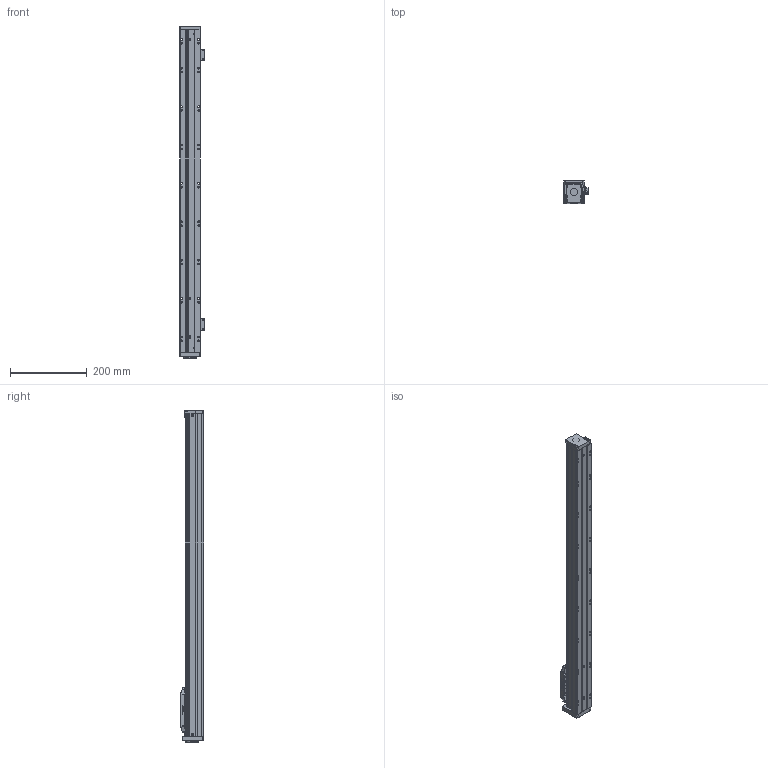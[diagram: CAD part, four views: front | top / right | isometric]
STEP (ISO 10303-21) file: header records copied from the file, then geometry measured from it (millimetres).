
FILE_DESCRIPTION (( 'STEP AP203' ), '1' );
FILE_NAME ('KTH5-L10-S700.STEP', '2019-12-19T08:38:43', ( '微软用户' ), ( '微软中国' ), 'SwSTEP 2.0', 'SolidWorks 2017', '' );
FILE_SCHEMA (( 'CONFIG_CONTROL_DESIGN' ));
Length unit declared in the file: millimetre
Products named in the file (16): 嫖萇羲壽諉揖え; 棠沭; EE-SX674; LES50-013癹弇菜; EE-SX674WR嫖萇羲壽假蚾啣; 詩湍; KTH5-L10-S700; 詩湍揤啣; GB╱T 70.1-2008[内六角圆柱头螺钉M4×16]_M4×16; LES50-001菁釱; GB╱T 70.2-2008[内六角平圆头螺钉M3×10]_M3×10; LES50-004賑釱; ヶ裔-党蜊唳; 耜啣; 粣創釱-郔笝唳20190813; 階裔
Assembly tree (31 placements, depth 2):
  KTH5-L10-S700
    LES50-001菁釱
    LES50-004賑釱
    耜啣  x2
    階裔
    棠沭  x2
    LES50-013癹弇菜  x2
    詩湍
    詩湍揤啣  x2
    GB╱T 70.1-2008[内六角圆柱头螺钉M4×16]_M4×16  x4
    GB╱T 70.2-2008[内六角平圆头螺钉M3×10]_M3×10  x8
    ヶ裔-党蜊唳
    粣創釱-郔笝唳20190813
    嫖萇羲壽諉揖え
    EE-SX674  x2
    EE-SX674WR嫖萇羲壽假蚾啣  x2
Bounding box: 64.25 x 60 x 865 mm (x, y, z)
Volume: 803803.7 mm3; surface area: 432355.2 mm2
Topology: 31 solids, 31 shells, 1429 faces, 3468 edges, 2120 vertices
Faces by surface type: plane 654, cylinder 471, cone 240, torus 36, sphere 16, bspline 12
Entity records: 33078 total; most frequent: CARTESIAN_POINT 5867, DIRECTION 5408, ORIENTED_EDGE 4988, EDGE_CURVE 2494, AXIS2_PLACEMENT_3D 1916, VERTEX_POINT 1585, LINE 1576, VECTOR 1576
